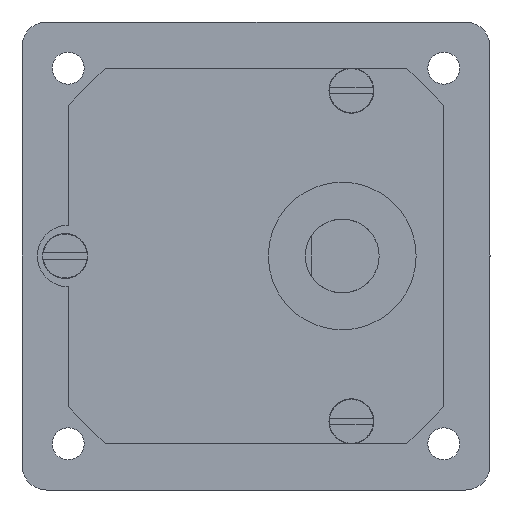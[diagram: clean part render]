
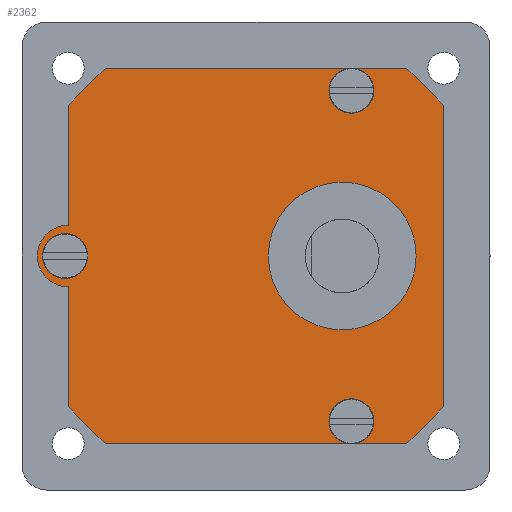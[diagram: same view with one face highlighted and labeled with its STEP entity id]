
A CAD part, left-side view. The second image highlights one B-rep face of the part: STEP entity #2362.
In plain terms, the highlighted planar face has unit normal (-1, 0, 0).
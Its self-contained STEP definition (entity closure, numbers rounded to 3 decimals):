
#682=CARTESIAN_POINT('',(-19.8,-7.75,-13.423));
#683=DIRECTION('',(1.,0.,0.));
#684=DIRECTION('',(0.,0.,-1.));
#685=AXIS2_PLACEMENT_3D('',#682,#683,#684);
#690=DIRECTION('',(0.,-1.,0.));
#691=VECTOR('',#690,20.);
#692=CARTESIAN_POINT('',(-19.8,12.25,-15.25));
#693=LINE('',#692,#691);
#697=DIRECTION('',(0.,-0.707,-0.707));
#698=VECTOR('',#697,4.243);
#699=CARTESIAN_POINT('',(-19.8,15.25,-12.25));
#700=LINE('',#699,#698);
#704=DIRECTION('',(0.,0.,-1.));
#705=VECTOR('',#704,9.75);
#706=CARTESIAN_POINT('',(-19.8,15.25,-2.5));
#707=LINE('',#706,#705);
#711=CARTESIAN_POINT('',(-19.8,15.25,0.));
#712=DIRECTION('',(-1.,0.,0.));
#713=DIRECTION('',(0.,0.,1.));
#714=AXIS2_PLACEMENT_3D('',#711,#712,#713);
#719=DIRECTION('',(0.,0.,-1.));
#720=VECTOR('',#719,9.75);
#721=CARTESIAN_POINT('',(-19.8,15.25,12.25));
#722=LINE('',#721,#720);
#726=DIRECTION('',(0.,0.707,-0.707));
#727=VECTOR('',#726,4.243);
#728=CARTESIAN_POINT('',(-19.8,12.25,15.25));
#729=LINE('',#728,#727);
#733=DIRECTION('',(0.,1.,0.));
#734=VECTOR('',#733,20.);
#735=CARTESIAN_POINT('',(-19.8,-7.75,15.25));
#736=LINE('',#735,#734);
#740=CARTESIAN_POINT('',(-19.8,-7.75,13.423));
#741=DIRECTION('',(1.,0.,0.));
#742=DIRECTION('',(0.,0.5,-0.866));
#743=AXIS2_PLACEMENT_3D('',#740,#741,#742);
#748=CARTESIAN_POINT('',(-19.8,-7.75,13.423));
#749=DIRECTION('',(1.,0.,0.));
#750=DIRECTION('',(0.,-0.5,0.866));
#751=AXIS2_PLACEMENT_3D('',#748,#749,#750);
#756=CARTESIAN_POINT('',(-19.8,-7.75,13.423));
#757=DIRECTION('',(1.,0.,0.));
#758=DIRECTION('',(0.,0.,1.));
#759=AXIS2_PLACEMENT_3D('',#756,#757,#758);
#764=DIRECTION('',(0.,1.,0.));
#765=VECTOR('',#764,4.5);
#766=CARTESIAN_POINT('',(-19.8,-12.25,15.25));
#767=LINE('',#766,#765);
#771=DIRECTION('',(0.,0.707,0.707));
#772=VECTOR('',#771,4.243);
#773=CARTESIAN_POINT('',(-19.8,-15.25,12.25));
#774=LINE('',#773,#772);
#778=DIRECTION('',(0.,0.,1.));
#779=VECTOR('',#778,24.5);
#780=CARTESIAN_POINT('',(-19.8,-15.25,-12.25));
#781=LINE('',#780,#779);
#785=DIRECTION('',(0.,-0.707,0.707));
#786=VECTOR('',#785,4.243);
#787=CARTESIAN_POINT('',(-19.8,-12.25,-15.25));
#788=LINE('',#787,#786);
#792=DIRECTION('',(0.,-1.,0.));
#793=VECTOR('',#792,4.5);
#794=CARTESIAN_POINT('',(-19.8,-7.75,-15.25));
#795=LINE('',#794,#793);
#799=CARTESIAN_POINT('',(-19.8,-7.75,-13.423));
#800=DIRECTION('',(1.,0.,0.));
#801=DIRECTION('',(0.,-0.5,-0.866));
#802=AXIS2_PLACEMENT_3D('',#799,#800,#801);
#807=CARTESIAN_POINT('',(-19.8,-7.75,-13.423));
#808=DIRECTION('',(1.,0.,0.));
#809=DIRECTION('',(0.,0.5,0.866));
#810=AXIS2_PLACEMENT_3D('',#807,#808,#809);
#815=CARTESIAN_POINT('',(-19.8,15.5,0.));
#816=DIRECTION('',(1.,0.,0.));
#817=DIRECTION('',(0.,1.,0.));
#818=AXIS2_PLACEMENT_3D('',#815,#816,#817);
#823=CARTESIAN_POINT('',(-19.8,15.5,0.));
#824=DIRECTION('',(1.,0.,0.));
#825=DIRECTION('',(0.,-1.,0.));
#826=AXIS2_PLACEMENT_3D('',#823,#824,#825);
#831=CARTESIAN_POINT('',(-19.8,-7.,0.));
#832=DIRECTION('',(1.,0.,0.));
#833=DIRECTION('',(0.,1.,0.));
#834=AXIS2_PLACEMENT_3D('',#831,#832,#833);
#839=CARTESIAN_POINT('',(-19.8,-7.,0.));
#840=DIRECTION('',(1.,0.,0.));
#841=DIRECTION('',(0.,-1.,0.));
#842=AXIS2_PLACEMENT_3D('',#839,#840,#841);
#1619=CARTESIAN_POINT('',(-19.8,-1.,0.));
#1620=CARTESIAN_POINT('',(-19.8,-13.,0.));
#1621=VERTEX_POINT('',#1619);
#1622=VERTEX_POINT('',#1620);
#1633=CARTESIAN_POINT('',(-19.8,-15.25,-12.25));
#1634=CARTESIAN_POINT('',(-19.8,-15.25,12.25));
#1635=VERTEX_POINT('',#1633);
#1636=VERTEX_POINT('',#1634);
#1637=CARTESIAN_POINT('',(-19.8,15.25,-2.5));
#1638=CARTESIAN_POINT('',(-19.8,15.25,-12.25));
#1639=VERTEX_POINT('',#1637);
#1640=VERTEX_POINT('',#1638);
#1657=CARTESIAN_POINT('',(-19.8,12.25,-15.25));
#1658=VERTEX_POINT('',#1657);
#1659=CARTESIAN_POINT('',(-19.8,-12.25,-15.25));
#1660=VERTEX_POINT('',#1659);
#1661=CARTESIAN_POINT('',(-19.8,-12.25,15.25));
#1662=VERTEX_POINT('',#1661);
#1663=CARTESIAN_POINT('',(-19.8,12.25,15.25));
#1664=CARTESIAN_POINT('',(-19.8,15.25,12.25));
#1665=VERTEX_POINT('',#1663);
#1666=VERTEX_POINT('',#1664);
#1669=CARTESIAN_POINT('',(-19.8,15.25,2.5));
#1670=VERTEX_POINT('',#1669);
#1673=CARTESIAN_POINT('',(-19.8,17.325,0.));
#1674=CARTESIAN_POINT('',(-19.8,13.675,0.));
#1675=VERTEX_POINT('',#1673);
#1676=VERTEX_POINT('',#1674);
#1677=CARTESIAN_POINT('',(-19.8,-8.663,15.004));
#1678=CARTESIAN_POINT('',(-19.8,-6.838,11.843));
#1679=VERTEX_POINT('',#1677);
#1680=VERTEX_POINT('',#1678);
#1681=CARTESIAN_POINT('',(-19.8,-6.838,-11.843));
#1682=CARTESIAN_POINT('',(-19.8,-8.663,-15.004));
#1683=VERTEX_POINT('',#1681);
#1684=VERTEX_POINT('',#1682);
#1685=CARTESIAN_POINT('',(-19.8,-7.75,15.248));
#1686=VERTEX_POINT('',#1685);
#1687=CARTESIAN_POINT('',(-19.8,-7.75,-15.248));
#1688=VERTEX_POINT('',#1687);
#2319=CARTESIAN_POINT('',(-19.8,0.,0.));
#2320=DIRECTION('',(-1.,0.,0.));
#2321=DIRECTION('',(0.,0.,1.));
#2322=AXIS2_PLACEMENT_3D('',#2319,#2320,#2321);
#2323=PLANE('',#2322);
#2325=ORIENTED_EDGE('',*,*,#2324,.F.);
#2326=ORIENTED_EDGE('',*,*,#2183,.F.);
#2327=ORIENTED_EDGE('',*,*,#2200,.F.);
#2328=ORIENTED_EDGE('',*,*,#2214,.F.);
#2329=ORIENTED_EDGE('',*,*,#2228,.F.);
#2330=ORIENTED_EDGE('',*,*,#2242,.F.);
#2331=ORIENTED_EDGE('',*,*,#2256,.F.);
#2332=ORIENTED_EDGE('',*,*,#2272,.F.);
#2334=ORIENTED_EDGE('',*,*,#2333,.F.);
#2336=ORIENTED_EDGE('',*,*,#2335,.F.);
#2338=ORIENTED_EDGE('',*,*,#2337,.F.);
#2339=ORIENTED_EDGE('',*,*,#2270,.F.);
#2340=ORIENTED_EDGE('',*,*,#2286,.F.);
#2341=ORIENTED_EDGE('',*,*,#2300,.F.);
#2342=ORIENTED_EDGE('',*,*,#2313,.F.);
#2343=ORIENTED_EDGE('',*,*,#2185,.F.);
#2345=ORIENTED_EDGE('',*,*,#2344,.F.);
#2347=ORIENTED_EDGE('',*,*,#2346,.F.);
#2348=EDGE_LOOP('',(#2325,#2326,#2327,#2328,#2329,#2330,#2331,#2332,#2334,#2336,
#2338,#2339,#2340,#2341,#2342,#2343,#2345,#2347));
#2349=FACE_OUTER_BOUND('',#2348,.F.);
#2351=ORIENTED_EDGE('',*,*,#2350,.F.);
#2353=ORIENTED_EDGE('',*,*,#2352,.F.);
#2354=EDGE_LOOP('',(#2351,#2353));
#2355=FACE_BOUND('',#2354,.F.);
#2357=ORIENTED_EDGE('',*,*,#2356,.F.);
#2359=ORIENTED_EDGE('',*,*,#2358,.F.);
#2360=EDGE_LOOP('',(#2357,#2359));
#2361=FACE_BOUND('',#2360,.F.);
#2362=ADVANCED_FACE('',(#2349,#2355,#2361),#2323,.T.);
#686=CIRCLE('',#685,1.825);
#715=CIRCLE('',#714,2.5);
#744=CIRCLE('',#743,1.825);
#752=CIRCLE('',#751,1.825);
#760=CIRCLE('',#759,1.825);
#803=CIRCLE('',#802,1.825);
#811=CIRCLE('',#810,1.825);
#819=CIRCLE('',#818,1.825);
#827=CIRCLE('',#826,1.825);
#835=CIRCLE('',#834,6.);
#843=CIRCLE('',#842,6.);
#2183=EDGE_CURVE('',#1658,#1688,#693,.T.);
#2185=EDGE_CURVE('',#1688,#1660,#795,.T.);
#2200=EDGE_CURVE('',#1640,#1658,#700,.T.);
#2214=EDGE_CURVE('',#1639,#1640,#707,.T.);
#2228=EDGE_CURVE('',#1670,#1639,#715,.T.);
#2242=EDGE_CURVE('',#1666,#1670,#722,.T.);
#2256=EDGE_CURVE('',#1665,#1666,#729,.T.);
#2270=EDGE_CURVE('',#1662,#1686,#767,.T.);
#2272=EDGE_CURVE('',#1686,#1665,#736,.T.);
#2286=EDGE_CURVE('',#1636,#1662,#774,.T.);
#2300=EDGE_CURVE('',#1635,#1636,#781,.T.);
#2313=EDGE_CURVE('',#1660,#1635,#788,.T.);
#2324=EDGE_CURVE('',#1688,#1683,#686,.T.);
#2333=EDGE_CURVE('',#1680,#1686,#744,.T.);
#2335=EDGE_CURVE('',#1679,#1680,#752,.T.);
#2337=EDGE_CURVE('',#1686,#1679,#760,.T.);
#2344=EDGE_CURVE('',#1684,#1688,#803,.T.);
#2346=EDGE_CURVE('',#1683,#1684,#811,.T.);
#2350=EDGE_CURVE('',#1675,#1676,#819,.T.);
#2352=EDGE_CURVE('',#1676,#1675,#827,.T.);
#2356=EDGE_CURVE('',#1621,#1622,#835,.T.);
#2358=EDGE_CURVE('',#1622,#1621,#843,.T.);
